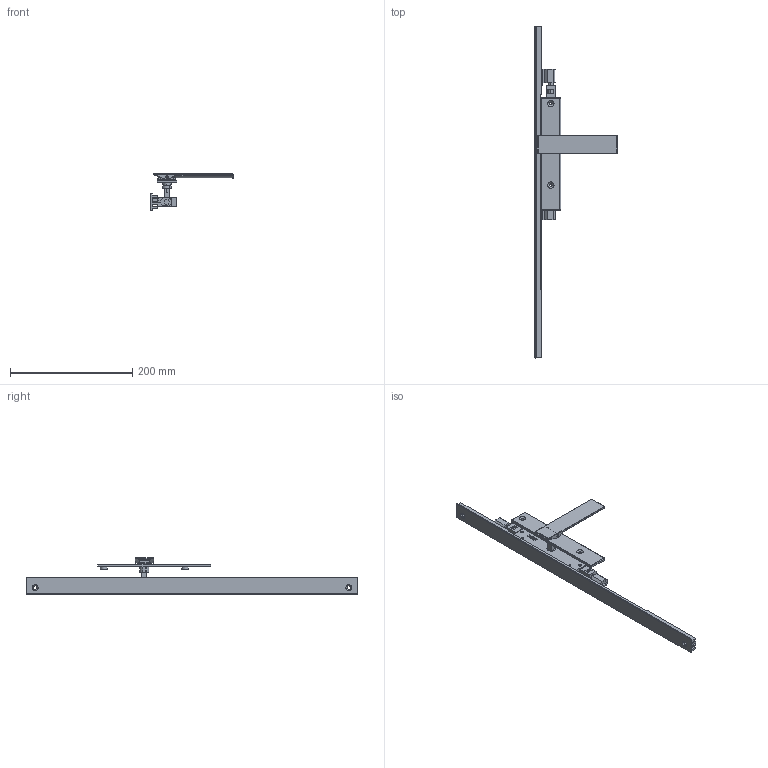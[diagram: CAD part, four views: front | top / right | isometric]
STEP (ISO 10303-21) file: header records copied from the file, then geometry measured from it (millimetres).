
FILE_DESCRIPTION (( 'STEP AP214' ), '1' );
FILE_NAME ('TPL-W-521-U 19July2024.STEP', '2024-12-05T00:11:17', ( '' ), ( '' ), 'SwSTEP 2.0', 'SolidWorks 2023', '' );
FILE_SCHEMA (( 'AUTOMOTIVE_DESIGN' ));
Length unit declared in the file: millimetre
Products named in the file (16): Copy of Handle sub-assembly - simplified^Copy of TPGen2 handle non-keyed - simplified_TPL-W-021 19July2024; Copy of Adapter DnF - simplfied^TPL-W-021 19July2024_26mm backset; Copy of COV-112-A Cover A suit TPLGen2 standard range^TPL-W-021 19July2024_1335mm; Copy of TPLGen2 lock body non-keyed assembly^TPL-W-021 19July2024_Bolts retracted; TPLGen2 push rod - simplified^Copy of TPLGen2 lock body non-keyed assembly_TPL-W-021 19July2024_Female thread M10; Copy of Adapter CnE - simplfied^TPL-W-021 19July2024_26mm backset; Copy of TPLGen2 lock body non-keyed^Copy of TPLGen2 lock body non-keyed assembly_TPL-W-021 19July2024; Copy of COV-112-C Cover C TPLGen2 Lock body^TPL-W-021 19July2024; COV-112-B Cover B suit TPLGen2 standard range^TPL-W-021 19July2024_2870mm; LKC-531 Lock twinpoint transmission rod wood system^TPL-W-021 19July2024_Standard Range 2891.7mm; Copy of Escutcheon plate unkeyed 185mm - simplified^Copy of TPGen2 handle non-keyed - simplified_TPL-W-021 19July2024; Copy of TPGen2 handle non-keyed - simplified^TPL-W-021 19July2024_Right; Copy of LKC-547 Spindle - simplified^Copy of TPGen2 handle non-keyed - simplified_TPL-W-021 19July2024_I - 28mm; Copy of Copy of LKC-531 Lock twinpoint transmission rod wood system^TPL-W-021 19July2024_Standard Range 2891.7mm; Bolt(2)^TPL-W-021 19July2024; TPL-W-521-U 19July2024
Assembly tree (13 placements, depth 3):
  Copy of COV-112-A Cover A suit TPLGen2 standard range^TPL-W-021 19July2024_1335mm
  COV-112-B Cover B suit TPLGen2 standard range^TPL-W-021 19July2024_2870mm
  Bolt(2)^TPL-W-021 19July2024
  TPL-W-521-U 19July2024
    Copy of TPLGen2 lock body non-keyed assembly^TPL-W-021 19July2024_Bolts retracted
      Copy of TPLGen2 lock body non-keyed^Copy of TPLGen2 lock body non-keyed assembly_TPL-W-021 19July2024
      TPLGen2 push rod - simplified^Copy of TPLGen2 lock body non-keyed assembly_TPL-W-021 19July2024_Female thread M10  x2
    Copy of TPGen2 handle non-keyed - simplified^TPL-W-021 19July2024_Right
      Copy of Escutcheon plate unkeyed 185mm - simplified^Copy of TPGen2 handle non-keyed - simplified_TPL-W-021 19July2024
      Copy of Handle sub-assembly - simplified^Copy of TPGen2 handle non-keyed - simplified_TPL-W-021 19July2024
      Copy of LKC-547 Spindle - simplified^Copy of TPGen2 handle non-keyed - simplified_TPL-W-021 19July2024_I - 28mm
    Copy of COV-112-C Cover C TPLGen2 Lock body^TPL-W-021 19July2024
    Copy of Copy of LKC-531 Lock twinpoint transmission rod wood system^TPL-W-021 19July2024_Standard Range 2891.7mm
    LKC-531 Lock twinpoint transmission rod wood system^TPL-W-021 19July2024_Standard Range 2891.7mm
    Copy of Adapter DnF - simplfied^TPL-W-021 19July2024_26mm backset
    Copy of Adapter CnE - simplfied^TPL-W-021 19July2024_26mm backset
Bounding box: 134.5 x 544 x 59.32 mm (x, y, z)
Volume: 210642.1 mm3; surface area: 119894.1 mm2
Topology: 12 solids, 12 shells, 637 faces, 1619 edges, 1023 vertices
Faces by surface type: plane 297, cylinder 199, bspline 77, torus 32, cone 20, sphere 12
Entity records: 19167 total; most frequent: CARTESIAN_POINT 4477, ORIENTED_EDGE 3022, DIRECTION 2859, EDGE_CURVE 1511, AXIS2_PLACEMENT_3D 985, VERTEX_POINT 963, VECTOR 889, LINE 889
